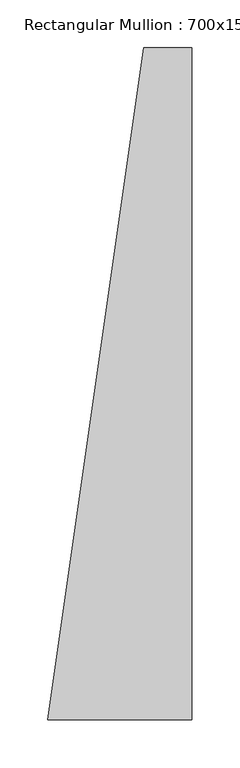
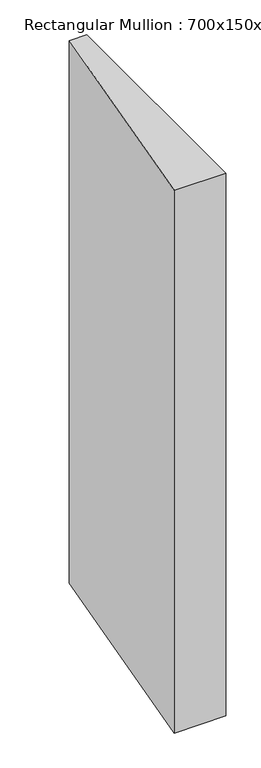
"""IFC4 building model written with IfcOpenShell, lengths in millimetres: member geometry, Rectangular Mullion : 700x150x50mm."""

from ifc_helpers import new_model, si_unit, frame, origin, place, context, project, spatial, polyline, outline, extrude, source, transform, mapped, element, save


def rectangular_mullion_700x150x50mm_f0b46553(model_context):
    return source(origin(), model_context, "Body", "SweptSolid", [
        extrude(outline(polyline([(0.0, -350.0), (-150.0, -350.0), (-50.0, 350.0), (0.0, 350.0), (0.0, -350.0)])), frame((0.0, 0.0, -1666.6648233), z_axis=(0.0, 0.0, 1.0), x_axis=(1.0, 0.0, 0.0)), (0.0, 0.0, 1.0), 1666.6648233),
    ])


if __name__ == "__main__":
    model = new_model("IFC4")
    model_context = context("Model", 3, world=origin())
    ifc_project = project(units=[si_unit("LENGTHUNIT", "METRE", prefix="MILLI")], contexts=[model_context])
    site = spatial("IfcSite", under=ifc_project)
    building = spatial("IfcBuilding", under=site)
    placement = place(None, origin())
    rectangular_mullion_700x150x50mm_shape = rectangular_mullion_700x150x50mm_f0b46553(model_context)
    element("IfcMember", 1, ObjectType="Rectangular Mullion : 700x150x50mm", at=placement, inside=building, context=model_context, shape_type="MappedRepresentation", body=[
        mapped(rectangular_mullion_700x150x50mm_shape, transform((0.0, 0.0, 0.0), x_axis=(1.0, 0.0, 0.0), y_axis=(0.0, 1.0, 0.0), z_axis=(0.0, 0.0, 1.0))),
    ])
    save(model, "model.ifc")
